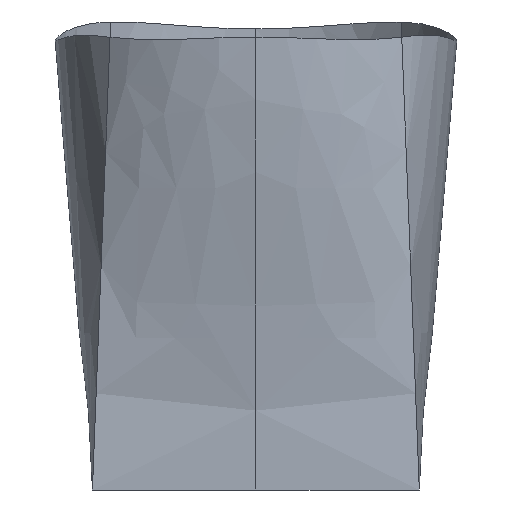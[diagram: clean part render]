
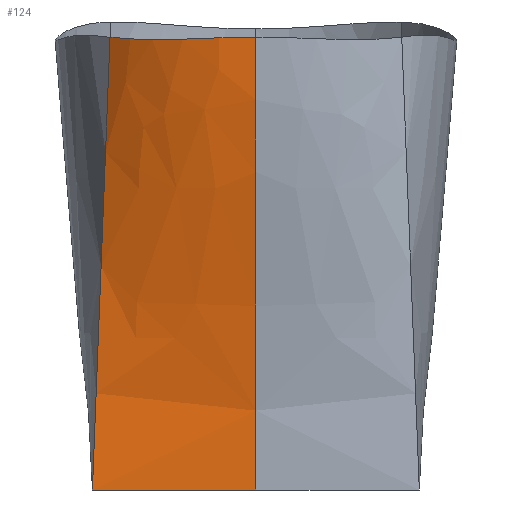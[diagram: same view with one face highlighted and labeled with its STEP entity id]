
A CAD part, front view. The second image highlights one B-rep face of the part: STEP entity #124.
In plain terms, the highlighted free-form (B-spline) face has degree [3, 3] with [13, 4] control points.
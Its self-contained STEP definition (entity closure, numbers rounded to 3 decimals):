
#9 = ORIENTED_EDGE ( 'NONE', *, *, #517, .T. ) ;
#14 = CARTESIAN_POINT ( 'NONE',  ( -44.323, -43.083, 50.731 ) ) ;
#21 = CARTESIAN_POINT ( 'NONE',  ( -12.424, -45.928, 50.731 ) ) ;
#30 = CARTESIAN_POINT ( 'NONE',  ( -4.167, -50., 0. ) ) ;
#33 = CARTESIAN_POINT ( 'NONE',  ( 45.833, -50., 0. ) ) ;
#38 = CARTESIAN_POINT ( 'NONE',  ( 4.167, -50., 0. ) ) ;
#39 = CARTESIAN_POINT ( 'NONE',  ( -33.114, -54.251, 137.801 ) ) ;
#44 = CARTESIAN_POINT ( 'NONE',  ( -27.678, -57.062, 137.792 ) ) ;
#49 = CARTESIAN_POINT ( 'NONE',  ( 0., -63.089, 138.552 ) ) ;
#55 = CARTESIAN_POINT ( 'NONE',  ( -4.116, -66.914, 99.074 ) ) ;
#68 = CARTESIAN_POINT ( 'NONE',  ( -46.129, -52.029, 99.074 ) ) ;
#74 = CARTESIAN_POINT ( 'NONE',  ( -24.381, -63.303, 99.074 ) ) ;
#84 = CARTESIAN_POINT ( 'NONE',  ( 42.812, -54.359, 99.074 ) ) ;
#88 = CARTESIAN_POINT ( 'NONE',  ( 48.065, -42.498, 50.731 ) ) ;
#89 = CARTESIAN_POINT ( 'NONE',  ( -2.035, -63.089, 138.552 ) ) ;
#91 = CARTESIAN_POINT ( 'NONE',  ( -4.141, -46.07, 50.731 ) ) ;
#96 = EDGE_CURVE ( 'NONE', #477, #114, #177, .T. ) ;
#99 = CARTESIAN_POINT ( 'NONE',  ( -14.151, -61.564, 138.237 ) ) ;
#101 = CARTESIAN_POINT ( 'NONE',  ( 0., -50., 0. ) ) ;
#105 = CARTESIAN_POINT ( 'NONE',  ( 4.116, -66.914, 99.074 ) ) ;
#114 = VERTEX_POINT ( 'NONE', #402 ) ;
#124 = ADVANCED_FACE ( 'NONE', ( #135 ), #192, .T. ) ;
#135 = FACE_OUTER_BOUND ( 'NONE', #688, .T. ) ;
#142 = CARTESIAN_POINT ( 'NONE',  ( 24.691, -45.257, 50.731 ) ) ;
#148 = CARTESIAN_POINT ( 'NONE',  ( -13.145, -61.776, 138.276 ) ) ;
#153 = CARTESIAN_POINT ( 'NONE',  ( 4.141, -46.07, 50.731 ) ) ;
#154 = EDGE_CURVE ( 'NONE', #275, #224, #598, .T. ) ;
#173 = CARTESIAN_POINT ( 'NONE',  ( -42.812, -54.359, 99.074 ) ) ;
#177 = B_SPLINE_CURVE_WITH_KNOTS ( 'NONE', 3,
 ( #398, #647, #391, #190 ),
 .UNSPECIFIED., .F., .F.,
 ( 4, 4 ),
 ( 0., 0.925 ),
 .UNSPECIFIED. ) ;
#190 = CARTESIAN_POINT ( 'NONE',  ( -44.632, -45.685, 138.522 ) ) ;
#192 = B_SPLINE_SURFACE_WITH_KNOTS ( 'NONE', 3, 3, ( 
 ( #540, #543, #68, #279 ),
 ( #284, #14, #173, #388 ),
 ( #233, #441, #651, #599 ),
 ( #341, #549, #74, #287 ),
 ( #498, #21, #446, #616 ),
 ( #30, #91, #55, #423 ),
 ( #683, #263, #476, #630 ),
 ( #38, #153, #105, #471 ),
 ( #209, #673, #245, #198 ),
 ( #420, #142, #316, #248 ),
 ( #687, #411, #369, #565 ),
 ( #33, #514, #84, #194 ),
 ( #252, #88, #428, #577 ) ),
 .UNSPECIFIED., .F., .F., .F.,
 ( 4, 1, 1, 1, 3, 1, 1, 1, 4 ),
 ( 4, 4 ),
 ( 0.75, 0.781, 0.813, 0.844, 0.875, 0.906, 0.938, 0.969, 1. ),
 ( 0., 1. ),
 .UNSPECIFIED. ) ;
#194 = CARTESIAN_POINT ( 'NONE',  ( 41.302, -47.087, 150. ) ) ;
#198 = CARTESIAN_POINT ( 'NONE',  ( 12.272, -61.694, 150. ) ) ;
#209 = CARTESIAN_POINT ( 'NONE',  ( 12.5, -50., 0. ) ) ;
#212 = CARTESIAN_POINT ( 'NONE',  ( 0., -46.366, 46.916 ) ) ;
#224 = VERTEX_POINT ( 'NONE', #558 ) ;
#233 = CARTESIAN_POINT ( 'NONE',  ( -37.5, -50., 0. ) ) ;
#245 = CARTESIAN_POINT ( 'NONE',  ( 12.348, -66.243, 99.074 ) ) ;
#246 = CARTESIAN_POINT ( 'NONE',  ( -41.561, -48.412, 138.232 ) ) ;
#248 = CARTESIAN_POINT ( 'NONE',  ( 24.072, -58.115, 150. ) ) ;
#252 = CARTESIAN_POINT ( 'NONE',  ( 50., -50., 0. ) ) ;
#253 = CARTESIAN_POINT ( 'NONE',  ( -38.306, -50.904, 138.001 ) ) ;
#258 = CARTESIAN_POINT ( 'NONE',  ( -31.326, -55.246, 137.779 ) ) ;
#261 = ORIENTED_EDGE ( 'NONE', *, *, #154, .T. ) ;
#263 = CARTESIAN_POINT ( 'NONE',  ( 0., -46.07, 50.731 ) ) ;
#275 = VERTEX_POINT ( 'NONE', #390 ) ;
#279 = CARTESIAN_POINT ( 'NONE',  ( -44.194, -44.194, 150. ) ) ;
#284 = CARTESIAN_POINT ( 'NONE',  ( -45.833, -50., 0. ) ) ;
#287 = CARTESIAN_POINT ( 'NONE',  ( -24.072, -58.115, 150. ) ) ;
#316 = CARTESIAN_POINT ( 'NONE',  ( 24.381, -63.303, 99.074 ) ) ;
#341 = CARTESIAN_POINT ( 'NONE',  ( -25., -50., 0. ) ) ;
#342 = LINE ( 'NONE', #550, #614 ) ;
#365 = CARTESIAN_POINT ( 'NONE',  ( -16.154, -61.093, 138.159 ) ) ;
#367 = CARTESIAN_POINT ( 'NONE',  ( -36.614, -52.074, 137.912 ) ) ;
#369 = CARTESIAN_POINT ( 'NONE',  ( 35.798, -58.574, 99.074 ) ) ;
#388 = CARTESIAN_POINT ( 'NONE',  ( -41.302, -47.087, 150. ) ) ;
#390 = CARTESIAN_POINT ( 'NONE',  ( 0., -50., 0. ) ) ;
#391 = CARTESIAN_POINT ( 'NONE',  ( -46.421, -50.688, 91.771 ) ) ;
#398 = CARTESIAN_POINT ( 'NONE',  ( -50., -50., 0. ) ) ;
#402 = CARTESIAN_POINT ( 'NONE',  ( -44.632, -45.685, 138.522 ) ) ;
#404 = B_SPLINE_CURVE_WITH_KNOTS ( 'NONE', 3,
 ( #676, #89, #416, #568, #626, #148, #99, #365, #511, #515, #456, #520, #44, #258, #39, #367, #253, #246, #421, #650 ),
 .UNSPECIFIED., .F., .F.,
 ( 4, 2, 2, 2, 2, 2, 2, 2, 2, 4 ),
 ( 0.049, 0.055, 0.061, 0.064, 0.067, 0.073, 0.079, 0.085, 0.091, 0.098 ),
 .UNSPECIFIED. ) ;
#411 = CARTESIAN_POINT ( 'NONE',  ( 36.649, -44.126, 50.731 ) ) ;
#416 = CARTESIAN_POINT ( 'NONE',  ( -4.064, -62.994, 138.529 ) ) ;
#420 = CARTESIAN_POINT ( 'NONE',  ( 25., -50., 0. ) ) ;
#421 = CARTESIAN_POINT ( 'NONE',  ( -43.128, -47.089, 138.373 ) ) ;
#423 = CARTESIAN_POINT ( 'NONE',  ( -4.091, -62.5, 150. ) ) ;
#428 = CARTESIAN_POINT ( 'NONE',  ( 46.129, -52.029, 99.074 ) ) ;
#432 = ORIENTED_EDGE ( 'NONE', *, *, #96, .F. ) ;
#441 = CARTESIAN_POINT ( 'NONE',  ( -36.649, -44.126, 50.731 ) ) ;
#442 = DIRECTION ( 'NONE',  ( 1., 0., 0. ) ) ;
#446 = CARTESIAN_POINT ( 'NONE',  ( -12.348, -66.243, 99.074 ) ) ;
#456 = CARTESIAN_POINT ( 'NONE',  ( -22.028, -59.348, 137.933 ) ) ;
#471 = CARTESIAN_POINT ( 'NONE',  ( 4.091, -62.5, 150. ) ) ;
#476 = CARTESIAN_POINT ( 'NONE',  ( 0., -66.914, 99.074 ) ) ;
#477 = VERTEX_POINT ( 'NONE', #604 ) ;
#488 = ORIENTED_EDGE ( 'NONE', *, *, #594, .T. ) ;
#498 = CARTESIAN_POINT ( 'NONE',  ( -12.5, -50., 0. ) ) ;
#511 = CARTESIAN_POINT ( 'NONE',  ( -17.147, -60.835, 138.12 ) ) ;
#514 = CARTESIAN_POINT ( 'NONE',  ( 44.323, -43.083, 50.731 ) ) ;
#515 = CARTESIAN_POINT ( 'NONE',  ( -20.097, -59.995, 138.005 ) ) ;
#517 = EDGE_CURVE ( 'NONE', #477, #275, #342, .T. ) ;
#520 = CARTESIAN_POINT ( 'NONE',  ( -25.818, -57.882, 137.827 ) ) ;
#540 = CARTESIAN_POINT ( 'NONE',  ( -50., -50., 0. ) ) ;
#543 = CARTESIAN_POINT ( 'NONE',  ( -48.065, -42.498, 50.731 ) ) ;
#549 = CARTESIAN_POINT ( 'NONE',  ( -24.691, -45.257, 50.731 ) ) ;
#550 = CARTESIAN_POINT ( 'NONE',  ( 0., -50., 0. ) ) ;
#558 = CARTESIAN_POINT ( 'NONE',  ( 0., -63.089, 138.552 ) ) ;
#565 = CARTESIAN_POINT ( 'NONE',  ( 34.947, -52.302, 150. ) ) ;
#568 = CARTESIAN_POINT ( 'NONE',  ( -8.11, -62.62, 138.445 ) ) ;
#577 = CARTESIAN_POINT ( 'NONE',  ( 44.194, -44.194, 150. ) ) ;
#594 = EDGE_CURVE ( 'NONE', #224, #114, #404, .T. ) ;
#598 = B_SPLINE_CURVE_WITH_KNOTS ( 'NONE', 3,
 ( #101, #212, #619, #49 ),
 .UNSPECIFIED., .F., .F.,
 ( 4, 4 ),
 ( 0., 0.139 ),
 .UNSPECIFIED. ) ;
#599 = CARTESIAN_POINT ( 'NONE',  ( -34.947, -52.302, 150. ) ) ;
#604 = CARTESIAN_POINT ( 'NONE',  ( -50., -50., 0. ) ) ;
#614 = VECTOR ( 'NONE', #442, 1000. ) ;
#616 = CARTESIAN_POINT ( 'NONE',  ( -12.272, -61.694, 150. ) ) ;
#619 = CARTESIAN_POINT ( 'NONE',  ( 0., -63.919, 91.79 ) ) ;
#626 = CARTESIAN_POINT ( 'NONE',  ( -10.127, -62.339, 138.383 ) ) ;
#630 = CARTESIAN_POINT ( 'NONE',  ( 0., -62.5, 150. ) ) ;
#647 = CARTESIAN_POINT ( 'NONE',  ( -48.211, -43.064, 46.906 ) ) ;
#650 = CARTESIAN_POINT ( 'NONE',  ( -44.632, -45.685, 138.522 ) ) ;
#651 = CARTESIAN_POINT ( 'NONE',  ( -35.798, -58.574, 99.074 ) ) ;
#673 = CARTESIAN_POINT ( 'NONE',  ( 12.424, -45.928, 50.731 ) ) ;
#676 = CARTESIAN_POINT ( 'NONE',  ( 0., -63.089, 138.552 ) ) ;
#683 = CARTESIAN_POINT ( 'NONE',  ( 0., -50., 0. ) ) ;
#687 = CARTESIAN_POINT ( 'NONE',  ( 37.5, -50., 0. ) ) ;
#688 = EDGE_LOOP ( 'NONE', ( #9, #261, #488, #432 ) ) ;
